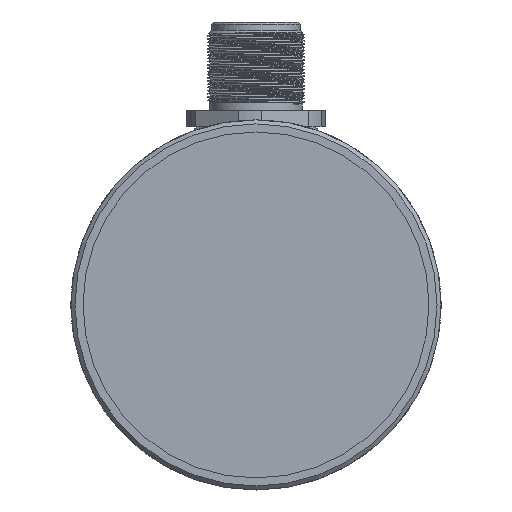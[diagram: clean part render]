
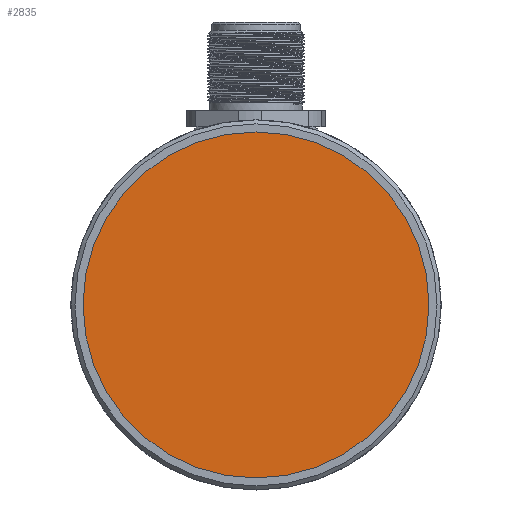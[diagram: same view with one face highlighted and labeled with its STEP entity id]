
A CAD part, left-side view. The second image highlights one B-rep face of the part: STEP entity #2835.
In plain terms, the highlighted planar face has unit normal (-1, 0, 0).
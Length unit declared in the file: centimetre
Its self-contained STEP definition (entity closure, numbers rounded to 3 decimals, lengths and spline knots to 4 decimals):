
#682=PLANE('',#3047);
#759=CIRCLE('',#3045,2.15);
#937=VERTEX_POINT('',#4415);
#1306=EDGE_CURVE('',#937,#937,#759,.T.);
#1781=ORIENTED_EDGE('',*,*,#1306,.T.);
#2373=EDGE_LOOP('',(#1781));
#2611=FACE_BOUND('',#2373,.T.);
#2835=ADVANCED_FACE('',(#2611),#682,.T.);
#3045=AXIS2_PLACEMENT_3D('',#4414,#3383,#3384);
#3047=AXIS2_PLACEMENT_3D('',#4418,#3387,$);
#3383=DIRECTION('',(-1.,0.,0.));
#3384=DIRECTION('',(0.,0.,2.15));
#3387=DIRECTION('',(-1.,0.,0.));
#4414=CARTESIAN_POINT('',(0.1,0.,0.));
#4415=CARTESIAN_POINT('',(0.1,0.,2.15));
#4418=CARTESIAN_POINT('',(0.1,0.,0.));
